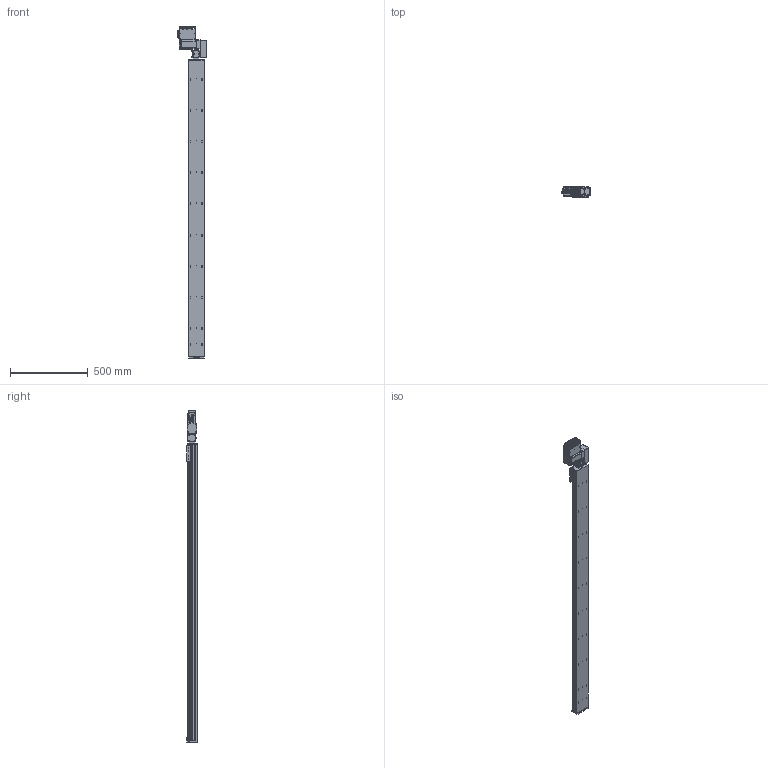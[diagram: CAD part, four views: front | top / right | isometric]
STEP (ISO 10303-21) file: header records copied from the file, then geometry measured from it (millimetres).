
FILE_DESCRIPTION (( 'STEP AP203' ), '1' );
FILE_NAME ('S10 TBN RH S1900.STEP', '2012-06-18T10:39:49', ( 'Conseil Régional Haute-Normandie' ), ( 'Conseil Régional Haute-Normandie' ), 'SwSTEP 2.0', 'SolidWorks 2010', '' );
FILE_SCHEMA (( 'CONFIG_CONTROL_DESIGN' ));
Length unit declared in the file: millimetre
Products named in the file (30): embout; renvoi LH_Default; cache t皻e_Default; Moteur 60BLDC90A_3; vis M5 L12_Default; BU45 Carte d''axe A11_5; Sub D 9cts 90_X2_00B_X0__3; Radiateur profil_X2_00E9_X0_ 100x25_3; Colonnette ronde_3; Vis M5 L16-2_Default_1; Vis TF 3 torkx; S10 TBN RH S1900; palette tbn; cache t皻e axe_Default; plaque de bout s10_Default; Plaque racord_Default; Assem1_7; T_X2_00F4_X0_le contre le moteur_5; BU41 Carte Alimentation P05_3; Colonnette_3; Couvercle_3; T_X2_00F4_X0_le fond_3; Connecteur rond D10 3cts_5; Connecteur rond D12 4cts_5; T_X2_00F4_X0_le Arri_X2_00E8_X0_re_5; T_X2_00F4_X0_le lat_X2_00E9_X0_rale_5; Vis TF 3 torkx_1_1; Cvis M5 L30_Default; vis M5 L5_Default; axe 1900
Assembly tree (69 placements, depth 3):
  S10 TBN RH S1900
    axe 1900
    Vis TF 3 torkx  x7
    Cvis M5 L30_Default  x2
    vis M5 L5_Default  x4
    Plaque racord_Default
    vis M5 L12_Default  x4
    cache t皻e axe_Default
    Vis M5 L16-2_Default_1  x4
    embout
    cache t皻e_Default  x2
    plaque de bout s10_Default
    renvoi LH_Default
    Assem1_7
      Colonnette_3  x2
      T_X2_00F4_X0_le fond_3
      Vis TF 3 torkx_1_1  x21
      Colonnette ronde_3
      Connecteur rond D10 3cts_5  x2
      T_X2_00F4_X0_le Arri_X2_00E8_X0_re_5
      BU45 Carte d''axe A11_5
      Connecteur rond D12 4cts_5
      Moteur 60BLDC90A_3
      Sub D 9cts 90_X2_00B_X0__3
      BU41 Carte Alimentation P05_3
      T_X2_00F4_X0_le lat_X2_00E9_X0_rale_5  x2
      Radiateur profil_X2_00E9_X0_ 100x25_3
      Couvercle_3
      T_X2_00F4_X0_le contre le moteur_5
    palette tbn
Bounding box: 189.8 x 66.75 x 2128.74 mm (x, y, z)
Volume: 10704830.5 mm3; surface area: 1214820.9 mm2
Topology: 68 solids, 68 shells, 2550 faces, 6325 edges, 4083 vertices
Faces by surface type: plane 1220, cylinder 1091, cone 196, bspline 40, torus 3
Entity records: 50255 total; most frequent: CARTESIAN_POINT 8995, DIRECTION 8126, ORIENTED_EDGE 7354, EDGE_CURVE 3677, AXIS2_PLACEMENT_3D 3025, VERTEX_POINT 2399, LINE 2076, VECTOR 2076
